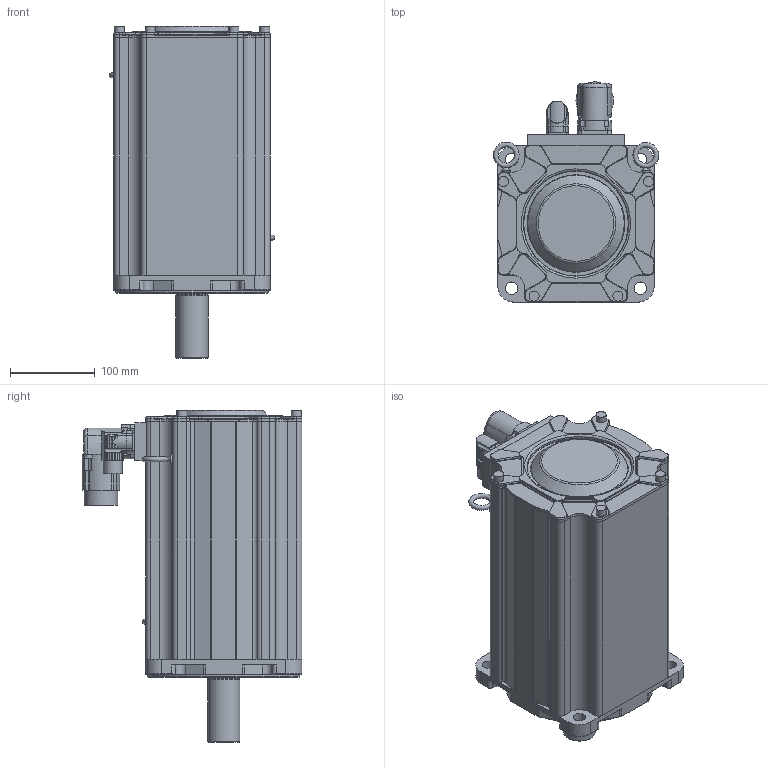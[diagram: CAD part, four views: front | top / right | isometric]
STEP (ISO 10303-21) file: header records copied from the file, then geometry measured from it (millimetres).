
FILE_DESCRIPTION((''),'2;1');
FILE_NAME('N:\SBN_SOLID_MODELS\3D MODELS\MPP1904XXX-NPSB.stp','2008-09-16T16:48:31',('je17857'),(''),'Autodesk Inventor 2008','Autodesk Inventor 2008','');
FILE_SCHEMA(('AUTOMOTIVE_DESIGN { 1 0 10303 214 1 1 1 1 }'));
Length unit declared in the file: inch
Products named in the file (1): MPP1904XXX-NPSB
Bounding box: 195.56 x 260.1 x 392.56 mm (x, y, z)
Volume: 9293390.1 mm3; surface area: 404197.7 mm2
Topology: 5 solids, 5 shells, 828 faces, 2098 edges, 1322 vertices
Faces by surface type: cylinder 373, plane 303, bspline 91, torus 46, cone 15
Full cylindrical faces by diameter (mm): 1.016 x17, 2 x2, 2.997 x2, 3.6 x4, 11.913 x4, 19.05 x1, 19.685 x1, 22.86 x1, 32.639 x1, 37.645 x1, 38.001 x1, 39.624 x1, 39.903 x1, 40.005 x1, 50.8 x1, 69.85 x1, 80.01 x1, 89.992 x1, 90 x1, 90.043 x1, 90.221 x1, 95.377 x1, 98.425 x1, 124.46 x1, 180.002 x1
Entity records: 29137 total; most frequent: CARTESIAN_POINT 8864, DIRECTION 4048, ORIENTED_EDGE 3962, EDGE_CURVE 1981, AXIS2_PLACEMENT_3D 1569, VERTEX_POINT 1294, EDGE_LOOP 975, VECTOR 910
